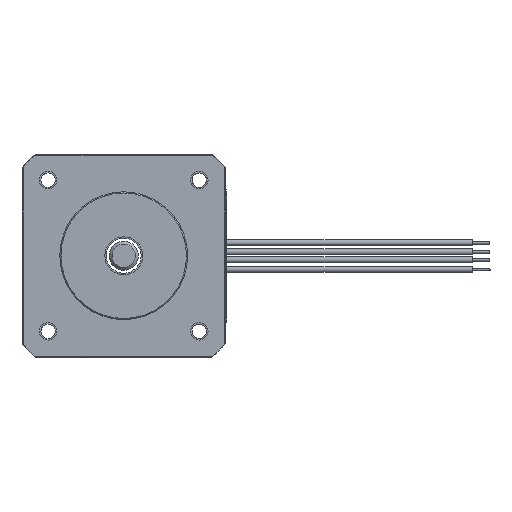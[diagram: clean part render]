
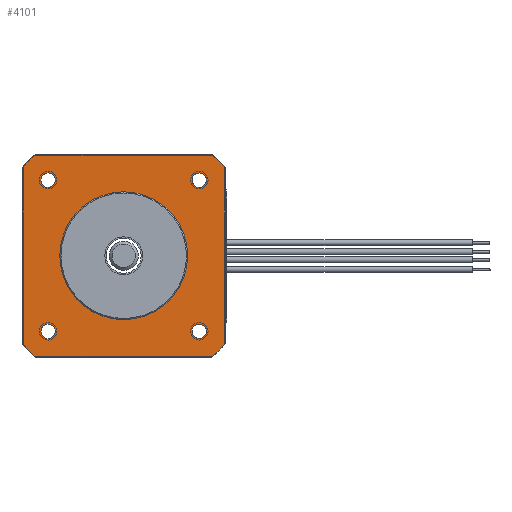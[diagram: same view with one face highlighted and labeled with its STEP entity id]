
A CAD part, left-side view. The second image highlights one B-rep face of the part: STEP entity #4101.
In plain terms, the highlighted planar face has unit normal (-1, 0, 0).
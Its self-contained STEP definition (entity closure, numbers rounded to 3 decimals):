
#2889=CARTESIAN_POINT('',(0.,-17.3,15.308));
#2890=VERTEX_POINT('',#2889);
#2891=CARTESIAN_POINT('',(0.,-17.3,-15.308));
#2892=VERTEX_POINT('',#2891);
#2893=CARTESIAN_POINT('',(0.,-17.3,15.308));
#2894=DIRECTION('',(0.,0.,-1.));
#2895=VECTOR('',#2894,30.615);
#2896=LINE('',#2893,#2895);
#2897=EDGE_CURVE('',#2890,#2892,#2896,.T.);
#2929=CARTESIAN_POINT('',(0.,-15.308,-17.3));
#2930=VERTEX_POINT('',#2929);
#2963=CARTESIAN_POINT('',(0.,0.,0.));
#2964=DIRECTION('',(0.,-0.749,-0.663));
#2965=DIRECTION('',(1.,-0.,0.));
#2966=AXIS2_PLACEMENT_3D('',#2963,#2965,#2964);
#2967=CIRCLE('',#2966,23.1);
#2968=EDGE_CURVE('',#2892,#2930,#2967,.T.);
#3174=CARTESIAN_POINT('',(0.,-15.308,17.3));
#3175=VERTEX_POINT('',#3174);
#3182=CARTESIAN_POINT('',(0.,0.,0.));
#3183=DIRECTION('',(0.,-0.663,0.749));
#3184=DIRECTION('',(1.,0.,0.));
#3185=AXIS2_PLACEMENT_3D('',#3182,#3184,#3183);
#3186=CIRCLE('',#3185,23.1);
#3187=EDGE_CURVE('',#3175,#2890,#3186,.T.);
#3197=CARTESIAN_POINT('',(0.,-13.,11.75));
#3198=VERTEX_POINT('',#3197);
#3205=CARTESIAN_POINT('',(0.,-13.,14.25));
#3206=VERTEX_POINT('',#3205);
#3207=CARTESIAN_POINT('',(0.,-13.,13.));
#3208=DIRECTION('',(0.,0.,-1.));
#3209=DIRECTION('',(-1.,0.,0.));
#3210=AXIS2_PLACEMENT_3D('',#3207,#3209,#3208);
#3211=CIRCLE('',#3210,1.25);
#3212=EDGE_CURVE('',#3198,#3206,#3211,.T.);
#3283=CARTESIAN_POINT('',(0.,-13.,13.));
#3284=DIRECTION('',(0.,0.,1.));
#3285=DIRECTION('',(-1.,0.,-0.));
#3286=AXIS2_PLACEMENT_3D('',#3283,#3285,#3284);
#3287=CIRCLE('',#3286,1.25);
#3288=EDGE_CURVE('',#3206,#3198,#3287,.T.);
#3456=CARTESIAN_POINT('',(0.,11.75,13.));
#3457=VERTEX_POINT('',#3456);
#3464=CARTESIAN_POINT('',(0.,14.25,13.));
#3465=VERTEX_POINT('',#3464);
#3466=CARTESIAN_POINT('',(0.,13.,13.));
#3467=DIRECTION('',(0.,-1.,0.));
#3468=DIRECTION('',(-1.,0.,0.));
#3469=AXIS2_PLACEMENT_3D('',#3466,#3468,#3467);
#3470=CIRCLE('',#3469,1.25);
#3471=EDGE_CURVE('',#3457,#3465,#3470,.T.);
#3520=CARTESIAN_POINT('',(0.,13.,13.));
#3521=DIRECTION('',(0.,1.,0.));
#3522=DIRECTION('',(-1.,-0.,0.));
#3523=AXIS2_PLACEMENT_3D('',#3520,#3522,#3521);
#3524=CIRCLE('',#3523,1.25);
#3525=EDGE_CURVE('',#3465,#3457,#3524,.T.);
#3686=CARTESIAN_POINT('',(0.,13.,-11.75));
#3687=VERTEX_POINT('',#3686);
#3694=CARTESIAN_POINT('',(0.,13.,-14.25));
#3695=VERTEX_POINT('',#3694);
#3696=CARTESIAN_POINT('',(0.,13.,-13.));
#3697=DIRECTION('',(0.,0.,1.));
#3698=DIRECTION('',(-1.,0.,-0.));
#3699=AXIS2_PLACEMENT_3D('',#3696,#3698,#3697);
#3700=CIRCLE('',#3699,1.25);
#3701=EDGE_CURVE('',#3687,#3695,#3700,.T.);
#3765=CARTESIAN_POINT('',(0.,13.,-13.));
#3766=DIRECTION('',(0.,0.,-1.));
#3767=DIRECTION('',(-1.,0.,0.));
#3768=AXIS2_PLACEMENT_3D('',#3765,#3767,#3766);
#3769=CIRCLE('',#3768,1.25);
#3770=EDGE_CURVE('',#3695,#3687,#3769,.T.);
#3782=CARTESIAN_POINT('',(0.,15.308,-17.3));
#3783=VERTEX_POINT('',#3782);
#3784=CARTESIAN_POINT('',(0.,-15.308,-17.3));
#3785=DIRECTION('',(0.,1.,0.));
#3786=VECTOR('',#3785,30.615);
#3787=LINE('',#3784,#3786);
#3788=EDGE_CURVE('',#2930,#3783,#3787,.T.);
#3813=CARTESIAN_POINT('',(0.,17.3,-15.308));
#3814=VERTEX_POINT('',#3813);
#3838=CARTESIAN_POINT('',(0.,0.,0.));
#3839=DIRECTION('',(0.,0.663,-0.749));
#3840=DIRECTION('',(1.,0.,-0.));
#3841=AXIS2_PLACEMENT_3D('',#3838,#3840,#3839);
#3842=CIRCLE('',#3841,23.1);
#3843=EDGE_CURVE('',#3783,#3814,#3842,.T.);
#3888=CARTESIAN_POINT('',(0.,-11.75,-13.));
#3889=VERTEX_POINT('',#3888);
#3896=CARTESIAN_POINT('',(0.,-14.25,-13.));
#3897=VERTEX_POINT('',#3896);
#3898=CARTESIAN_POINT('',(0.,-13.,-13.));
#3899=DIRECTION('',(0.,1.,0.));
#3900=DIRECTION('',(-1.,-0.,0.));
#3901=AXIS2_PLACEMENT_3D('',#3898,#3900,#3899);
#3902=CIRCLE('',#3901,1.25);
#3903=EDGE_CURVE('',#3889,#3897,#3902,.T.);
#3992=CARTESIAN_POINT('',(0.,-13.,-13.));
#3993=DIRECTION('',(0.,-1.,0.));
#3994=DIRECTION('',(-1.,0.,0.));
#3995=AXIS2_PLACEMENT_3D('',#3992,#3994,#3993);
#3996=CIRCLE('',#3995,1.25);
#3997=EDGE_CURVE('',#3897,#3889,#3996,.T.);
#4030=CARTESIAN_POINT('',(0.,0.,0.));
#4031=DIRECTION('',(0.,0.,-1.));
#4032=DIRECTION('',(-1.,-0.,-0.));
#4033=AXIS2_PLACEMENT_3D('',#4030,#4032,#4031);
#4034=PLANE('',#4033);
#4035=CARTESIAN_POINT('',(0.,17.3,15.308));
#4036=VERTEX_POINT('',#4035);
#4037=CARTESIAN_POINT('',(0.,17.3,15.308));
#4038=DIRECTION('',(0.,0.,-1.));
#4039=VECTOR('',#4038,30.615);
#4040=LINE('',#4037,#4039);
#4041=EDGE_CURVE('',#4036,#3814,#4040,.T.);
#4042=ORIENTED_EDGE('E381',*,*,#4041,.T.);
#4043=ORIENTED_EDGE('E381',*,*,#3843,.F.);
#4044=ORIENTED_EDGE('E381',*,*,#3788,.F.);
#4045=ORIENTED_EDGE('E381',*,*,#2968,.F.);
#4046=ORIENTED_EDGE('E381',*,*,#2897,.F.);
#4047=ORIENTED_EDGE('E381',*,*,#3187,.F.);
#4048=CARTESIAN_POINT('',(0.,15.308,17.3));
#4049=VERTEX_POINT('',#4048);
#4050=CARTESIAN_POINT('',(0.,-15.308,17.3));
#4051=DIRECTION('',(0.,1.,0.));
#4052=VECTOR('',#4051,30.615);
#4053=LINE('',#4050,#4052);
#4054=EDGE_CURVE('',#3175,#4049,#4053,.T.);
#4055=ORIENTED_EDGE('E382',*,*,#4054,.T.);
#4056=CARTESIAN_POINT('',(0.,0.,0.));
#4057=DIRECTION('',(0.,0.663,0.749));
#4058=DIRECTION('',(-1.,0.,-0.));
#4059=AXIS2_PLACEMENT_3D('',#4056,#4058,#4057);
#4060=CIRCLE('',#4059,23.1);
#4061=EDGE_CURVE('',#4049,#4036,#4060,.T.);
#4062=ORIENTED_EDGE('E383',*,*,#4061,.T.);
#4063=EDGE_LOOP('',(#4042,#4043,#4044,#4045,#4046,#4047,#4055,#4062));
#4064=FACE_OUTER_BOUND('',#4063,.T.);
#4065=ORIENTED_EDGE('',*,*,#3288,.F.);
#4066=ORIENTED_EDGE('',*,*,#3212,.F.);
#4067=EDGE_LOOP('',(#4065,#4066));
#4068=FACE_BOUND('',#4067,.T.);
#4069=ORIENTED_EDGE('',*,*,#3525,.F.);
#4070=ORIENTED_EDGE('',*,*,#3471,.F.);
#4071=EDGE_LOOP('',(#4069,#4070));
#4072=FACE_BOUND('',#4071,.T.);
#4073=ORIENTED_EDGE('',*,*,#3770,.F.);
#4074=ORIENTED_EDGE('',*,*,#3701,.F.);
#4075=EDGE_LOOP('',(#4073,#4074));
#4076=FACE_BOUND('',#4075,.T.);
#4077=ORIENTED_EDGE('',*,*,#3997,.F.);
#4078=ORIENTED_EDGE('',*,*,#3903,.F.);
#4079=EDGE_LOOP('',(#4077,#4078));
#4080=FACE_BOUND('',#4079,.T.);
#4081=CARTESIAN_POINT('',(0.,11.,0.));
#4082=VERTEX_POINT('',#4081);
#4083=CARTESIAN_POINT('',(0.,-11.,0.));
#4084=VERTEX_POINT('',#4083);
#4085=CARTESIAN_POINT('',(0.,0.,0.));
#4086=DIRECTION('',(0.,1.,0.));
#4087=DIRECTION('',(1.,0.,0.));
#4088=AXIS2_PLACEMENT_3D('',#4085,#4087,#4086);
#4089=CIRCLE('',#4088,11.);
#4090=EDGE_CURVE('',#4082,#4084,#4089,.T.);
#4091=ORIENTED_EDGE('E384',*,*,#4090,.T.);
#4092=CARTESIAN_POINT('',(0.,0.,0.));
#4093=DIRECTION('',(0.,-1.,0.));
#4094=DIRECTION('',(1.,-0.,0.));
#4095=AXIS2_PLACEMENT_3D('',#4092,#4094,#4093);
#4096=CIRCLE('',#4095,11.);
#4097=EDGE_CURVE('',#4084,#4082,#4096,.T.);
#4098=ORIENTED_EDGE('E385',*,*,#4097,.T.);
#4099=EDGE_LOOP('',(#4091,#4098));
#4100=FACE_BOUND('',#4099,.T.);
#4101=ADVANCED_FACE('F107',(#4064,#4068,#4072,#4076,#4080,#4100),#4034,.T.);
